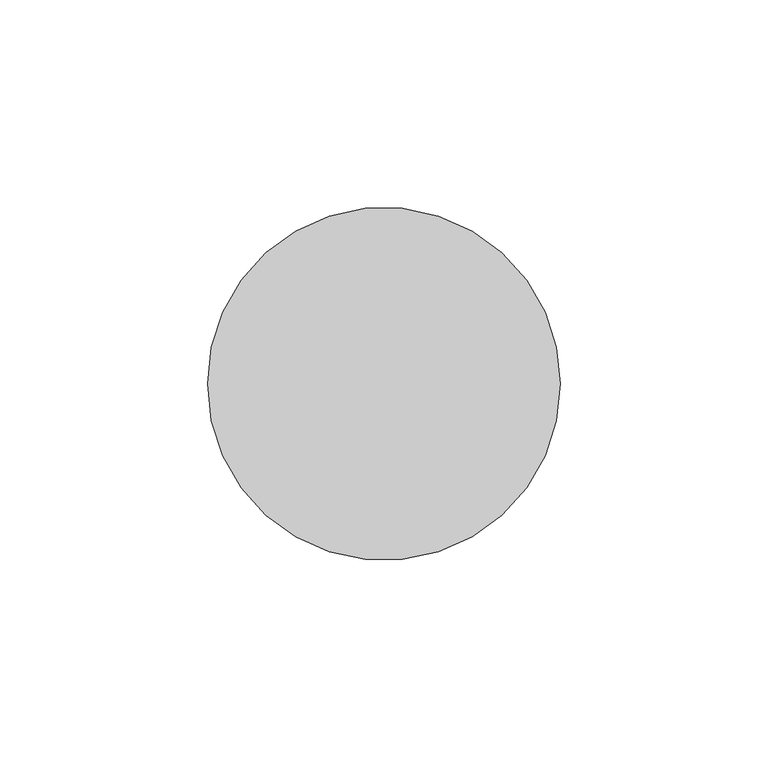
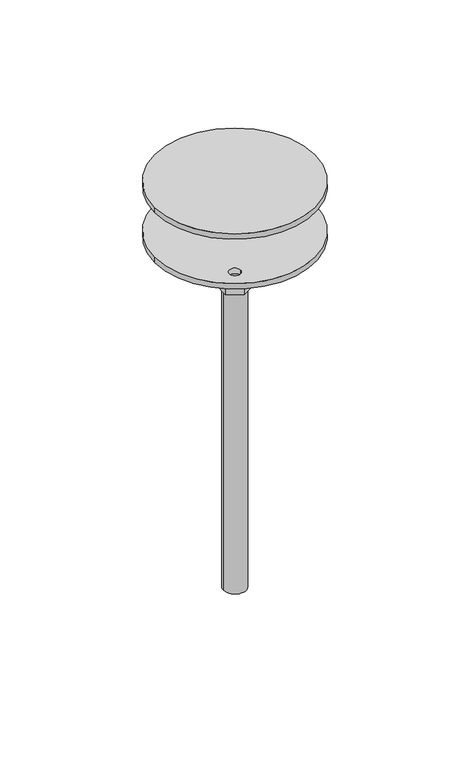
"""IFC4 building model written with IfcOpenShell, lengths in millimetres: proxy geometry, КНС_ТочкаЗаземления_DKC : NE1004_Нержавеющая сталь_М12."""

from ifc_helpers import new_model, si_unit, point, frame, origin, origin_with_axes, origin_2d, place, context, project, spatial, polyline, circle_curve, trimmed, segment, composite_curve, outline, extrude, source, transform, mapped, element, save
from ifc_brep_helpers import plane_surface, cylinder_surface, revolved_surface, advanced_brep


def security_devices_1f405249(model_context):
    return source(origin(), model_context, "Body", "SolidModel", [
        advanced_brep(
        [(0.0, 8.6345249, -30.5), (7.4777179, 4.3172624, -30.5), (7.4777179, -4.3172624, -30.5), (0.0, -8.6345249, -30.5), (-7.4777179, -4.3172624, -30.5), (-7.4777179, 4.3172624, -30.5), (-6.0, 0.0, -30.5), (6.0, 0.0, -30.5), (-7.4777179, 4.3172624, -3.0), (0.0, 8.6345249, -3.0), (-7.4777179, -4.3172624, -3.0), (0.0, -8.6345249, -3.0), (7.4777179, -4.3172624, -3.0), (7.4777179, 4.3172624, -3.0), (-42.5, 0.0, -3.0), (42.5, 0.0, -3.0), (30.0, 0.0, -3.0), (36.0, 0.0, -3.0), (-19.5, -28.5788383, -3.0), (-13.5, -28.5788383, -3.0), (-19.5, 28.5788383, -3.0), (-13.5, 28.5788383, -3.0), (-42.5, 0.0, 0.0), (42.5, 0.0, 0.0), (30.0, 0.0, 0.0), (36.0, 0.0, 0.0), (-19.5, -28.5788383, 0.0), (-13.5, -28.5788383, 0.0), (-19.5, 28.5788383, 0.0), (-13.5, 28.5788383, 0.0), (-6.0, 0.0, -200.0), (6.0, 0.0, -200.0)],
        [
            (0, 1),
            (1, 2),
            (2, 3),
            (3, 4),
            (4, 5),
            (5, 0),
            (6, 7, circle_curve(frame((0.0, 0.0, -30.5), z_axis=(0.0, 0.0, 1.0), x_axis=(1.0, 0.0, 0.0)), 6.0)),
            (7, 6, circle_curve(frame((0.0, 0.0, -30.5), z_axis=(0.0, 0.0, 1.0), x_axis=(1.0, 0.0, 0.0)), 6.0)),
            (5, 8),
            (8, 9),
            (9, 0),
            (4, 10),
            (10, 8),
            (3, 11),
            (11, 10),
            (2, 12),
            (12, 11),
            (1, 13),
            (13, 12),
            (9, 13),
            (14, 15, circle_curve(frame((0.0, 0.0, -3.0), z_axis=(0.0, 0.0, -1.0), x_axis=(1.0, 0.0, 0.0)), 42.5)),
            (15, 14, circle_curve(frame((0.0, 0.0, -3.0), z_axis=(0.0, 0.0, -1.0), x_axis=(1.0, 0.0, 0.0)), 42.5)),
            (16, 17, circle_curve(frame((33.0, 0.0, -3.0), z_axis=(0.0, 0.0, 1.0), x_axis=(1.0, 0.0, 0.0)), 3.0)),
            (17, 16, circle_curve(frame((33.0, 0.0, -3.0), z_axis=(0.0, 0.0, 1.0), x_axis=(1.0, 0.0, 0.0)), 3.0)),
            (18, 19, circle_curve(frame((-16.5, -28.5788383, -3.0), z_axis=(0.0, 0.0, 1.0), x_axis=(1.0, 0.0, 0.0)), 3.0)),
            (19, 18, circle_curve(frame((-16.5, -28.5788383, -3.0), z_axis=(0.0, 0.0, 1.0), x_axis=(1.0, 0.0, 0.0)), 3.0)),
            (20, 21, circle_curve(frame((-16.5, 28.5788383, -3.0), z_axis=(0.0, 0.0, 1.0), x_axis=(1.0, 0.0, 0.0)), 3.0)),
            (21, 20, circle_curve(frame((-16.5, 28.5788383, -3.0), z_axis=(0.0, 0.0, 1.0), x_axis=(1.0, 0.0, 0.0)), 3.0)),
            (22, 23, circle_curve(origin_with_axes(), 42.5)),
            (23, 22, circle_curve(origin_with_axes(), 42.5)),
            (24, 25, circle_curve(frame((33.0, 0.0, 0.0), z_axis=(0.0, 0.0, -1.0), x_axis=(1.0, 0.0, 0.0)), 3.0)),
            (25, 24, circle_curve(frame((33.0, 0.0, 0.0), z_axis=(0.0, 0.0, -1.0), x_axis=(1.0, 0.0, 0.0)), 3.0)),
            (26, 27, circle_curve(frame((-16.5, -28.5788383, 0.0), z_axis=(0.0, 0.0, -1.0), x_axis=(1.0, 0.0, 0.0)), 3.0)),
            (27, 26, circle_curve(frame((-16.5, -28.5788383, 0.0), z_axis=(0.0, 0.0, -1.0), x_axis=(1.0, 0.0, 0.0)), 3.0)),
            (28, 29, circle_curve(frame((-16.5, 28.5788383, 0.0), z_axis=(0.0, 0.0, -1.0), x_axis=(1.0, 0.0, 0.0)), 3.0)),
            (29, 28, circle_curve(frame((-16.5, 28.5788383, 0.0), z_axis=(0.0, 0.0, -1.0), x_axis=(1.0, 0.0, 0.0)), 3.0)),
            (15, 23),
            (22, 14),
            (17, 25),
            (24, 16),
            (19, 27),
            (26, 18),
            (21, 29),
            (28, 20),
            (30, 31, circle_curve(frame((0.0, 0.0, -200.0), z_axis=(0.0, 0.0, -1.0), x_axis=(1.0, 0.0, 0.0)), 6.0)),
            (31, 30, circle_curve(frame((0.0, 0.0, -200.0), z_axis=(0.0, 0.0, -1.0), x_axis=(1.0, 0.0, 0.0)), 6.0)),
            (31, 7),
            (6, 30),
        ],
        [
            plane_surface(frame((0.0, 8.6345249, -30.5), z_axis=(0.0, 0.0, -1.0), x_axis=(0.8660254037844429, 0.4999999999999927, 0.0))),
            plane_surface(frame((0.0, 8.6345249, -3.0), z_axis=(-0.4999999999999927, 0.8660254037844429, 0.0), x_axis=(0.0, 0.0, -1.0))),
            plane_surface(frame((-7.4777179, 4.3172624, -3.0), z_axis=(-1.0, 0.0, 0.0), x_axis=(0.0, 0.0, -1.0))),
            plane_surface(frame((-7.4777179, -4.3172624, -3.0), z_axis=(-0.5000000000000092, -0.8660254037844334, 0.0), x_axis=(0.0, 0.0, -1.0))),
            plane_surface(frame((0.0, -8.6345249, -3.0), z_axis=(0.49999999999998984, -0.8660254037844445, 0.0), x_axis=(0.0, 0.0, -1.0))),
            plane_surface(frame((7.4777179, -4.3172624, -3.0), z_axis=(1.0, 0.0, 0.0), x_axis=(0.0, 0.0, -1.0))),
            plane_surface(frame((7.4777179, 4.3172624, -3.0), z_axis=(0.5000000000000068, 0.8660254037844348, 0.0), x_axis=(0.0, 0.0, -1.0))),
            plane_surface(frame((42.5, 0.0, -3.0), z_axis=(0.0, 0.0, -1.0), x_axis=(0.0, -1.0, 0.0))),
            plane_surface(frame((42.5, 0.0, 0.0), z_axis=(0.0, 0.0, 1.0), x_axis=(0.0, 1.0, 0.0))),
            cylinder_surface(frame((0.0, 0.0, -3.0), z_axis=(0.0, 0.0, 1.0), x_axis=(1.0, 0.0, 0.0)), 42.5),
            revolved_surface(polyline([(36.0, 0.0, -3.0), (36.0, 0.0, 0.0)]), (33.0, 0.0, 0.0), (0.0, 0.0, -1.0)),
            revolved_surface(polyline([(-13.5, -28.5788383, -3.0), (-13.5, -28.5788383, 0.0)]), (-16.5, -28.5788383, 0.0), (0.0, 0.0, -1.0)),
            revolved_surface(polyline([(-13.5, 28.5788383, -3.0), (-13.5, 28.5788383, 0.0)]), (-16.5, 28.5788383, 0.0), (0.0, 0.0, -1.0)),
            plane_surface(frame((6.0, 0.0, -200.0), z_axis=(0.0, 0.0, -1.0), x_axis=(0.0, -1.0, 0.0))),
            cylinder_surface(frame((0.0, 0.0, -200.0), z_axis=(0.0, 0.0, 1.0), x_axis=(1.0, 0.0, 0.0)), 6.0),
        ],
        [
            (0, [[1, 2, 3, 4, 5, 6], [7, 8]]),
            (1, [[-6, 9, 10, 11]]),
            (2, [[-5, 12, 13, -9]]),
            (3, [[-4, 14, 15, -12]]),
            (4, [[-3, 16, 17, -14]]),
            (5, [[-2, 18, 19, -16]]),
            (6, [[-1, -11, 20, -18]]),
            (7, [[21, 22], [-10, -13, -15, -17, -19, -20], [23, 24], [25, 26], [27, 28]]),
            (8, [[29, 30], [31, 32], [33, 34], [35, 36]]),
            (9, [[-22, 37, -29, 38]]),
            (9, [[-21, -38, -30, -37]]),
            (10, [[-24, 39, -31, 40]]),
            (10, [[-23, -40, -32, -39]]),
            (11, [[-26, 41, -33, 42]]),
            (11, [[-25, -42, -34, -41]]),
            (12, [[-28, 43, -35, 44]]),
            (12, [[-27, -44, -36, -43]]),
            (13, [[45, 46]]),
            (14, [[-46, 47, -7, 48]]),
            (14, [[-45, -48, -8, -47]]),
        ],
    ),
        extrude(outline(composite_curve([segment(trimmed(circle_curve(origin_2d(), 42.5), [point((-42.5, 0.0))], [point((42.5, 0.0))], False, "CARTESIAN"), True, "CONTINUOUS"), segment(trimmed(circle_curve(origin_2d(), 42.5), [point((42.5, 0.0))], [point((-42.5, 0.0))], False, "CARTESIAN"), True, "CONTINUOUS")], self_intersect=False)), frame((0.0, 0.0, 25.0), z_axis=(0.0, 0.0, 1.0), x_axis=(1.0, 0.0, 0.0)), (0.0, 0.0, 1.0), 3.0),
    ])


if __name__ == "__main__":
    model = new_model("IFC4")
    model_context = context("Model", 3, world=origin())
    ifc_project = project(units=[si_unit("LENGTHUNIT", "METRE", prefix="MILLI")], contexts=[model_context])
    site = spatial("IfcSite", under=ifc_project)
    building = spatial("IfcBuilding", under=site)
    placement = place(None, origin())
    security_devices_shape = security_devices_1f405249(model_context)
    element("IfcBuildingElementProxy", 1, Name="КНС_ТочкаЗаземления_DKC : NE1004_Нержавеющая сталь_М12", ObjectType="КНС_ТочкаЗаземления_DKC : NE1004_Нержавеющая сталь_М12", at=placement, inside=building, context=model_context, shape_type="MappedRepresentation", body=[
        mapped(security_devices_shape, transform((0.0, 0.0, 0.0), x_axis=(1.0, 0.0, 0.0), y_axis=(0.0, 1.0, 0.0), z_axis=(0.0, 0.0, 1.0))),
    ])
    save(model, "model.ifc")
